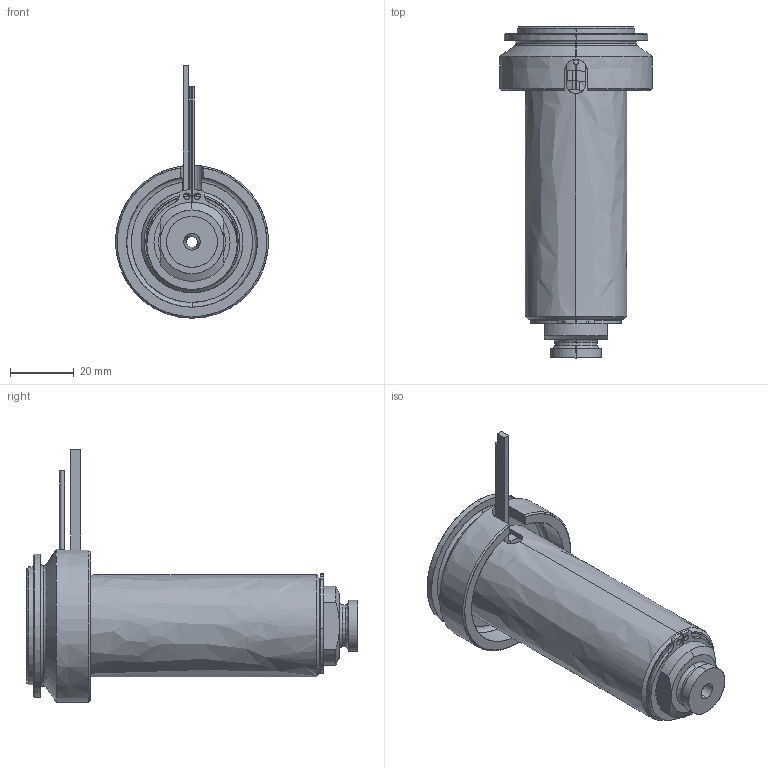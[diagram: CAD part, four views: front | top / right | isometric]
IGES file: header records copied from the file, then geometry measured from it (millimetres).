
Start section: SolidWorks IGES file using analytic representation for surfaces
Global section: file name: C:\Documents and Settings\ws-20\Desktop\TEMPORANEA\UGBE5002-M-A-5 [Ød-3.5 P-0 ØC-13].IGS; native system: SolidWorks 2012; preprocessor: SolidWorks 2012; author: ws-20; date: 120306.161712; units: millimetre
Bounding box: 48 x 104.25 x 79.3 mm (x, y, z)
Surface area: 39532 mm2 (no closed solid volume)
Topology: 0 solids, 0 shells, 109 faces, 2046 edges, 2046 vertices
Faces by surface type: revolution 62, bspline 47
